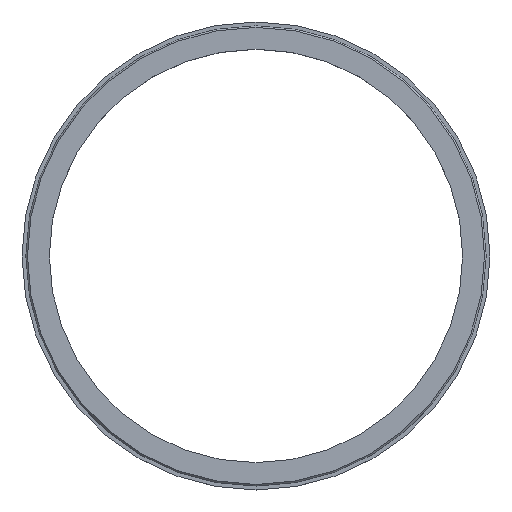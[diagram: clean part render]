
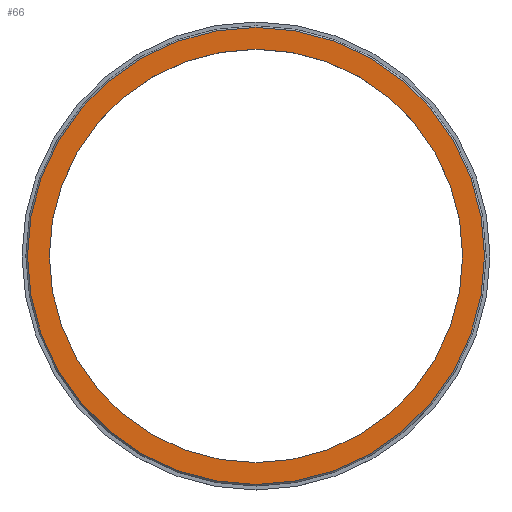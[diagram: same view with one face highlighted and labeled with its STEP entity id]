
A CAD part, top view. The second image highlights one B-rep face of the part: STEP entity #66.
In plain terms, the highlighted planar face has unit normal (0, 0, 1).
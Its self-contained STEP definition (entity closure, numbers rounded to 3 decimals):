
#58=FACE_BOUND('',#96,.F.);
#61=PLANE('',#292);
#66=ADVANCED_FACE('',(#58,#81),#61,.T.);
#81=FACE_OUTER_BOUND('',#97,.F.);
#96=EDGE_LOOP('',(#120,#121));
#97=EDGE_LOOP('',(#122,#123));
#120=ORIENTED_EDGE('',*,*,#217,.T.);
#121=ORIENTED_EDGE('',*,*,#212,.T.);
#122=ORIENTED_EDGE('',*,*,#211,.F.);
#123=ORIENTED_EDGE('',*,*,#208,.F.);
#208=EDGE_CURVE('',#265,#264,#238,.T.);
#211=EDGE_CURVE('',#264,#265,#241,.T.);
#212=EDGE_CURVE('',#261,#260,#242,.T.);
#217=EDGE_CURVE('',#260,#261,#243,.T.);
#238=CIRCLE('',#276,29.3);
#241=CIRCLE('',#279,29.3);
#242=CIRCLE('',#280,26.5);
#243=CIRCLE('',#281,26.5);
#260=VERTEX_POINT('',#397);
#261=VERTEX_POINT('',#398);
#264=VERTEX_POINT('',#401);
#265=VERTEX_POINT('',#402);
#276=AXIS2_PLACEMENT_3D('',#411,#316,#317);
#279=AXIS2_PLACEMENT_3D('',#414,#322,#323);
#280=AXIS2_PLACEMENT_3D('',#415,#324,#325);
#281=AXIS2_PLACEMENT_3D('',#420,#330,#331);
#292=AXIS2_PLACEMENT_3D('',#439,#360,#361);
#316=DIRECTION('',(0.,0.,1.));
#317=DIRECTION('',(0.,1.,0.));
#322=DIRECTION('',(0.,0.,1.));
#323=DIRECTION('',(0.,-1.,0.));
#324=DIRECTION('',(0.,0.,1.));
#325=DIRECTION('',(0.,-1.,0.));
#330=DIRECTION('',(0.,0.,1.));
#331=DIRECTION('',(0.,1.,0.));
#360=DIRECTION('',(0.,0.,1.));
#361=DIRECTION('',(-1.,0.,0.));
#397=CARTESIAN_POINT('',(197.042,62.13,-190.5));
#398=CARTESIAN_POINT('',(197.042,9.13,-190.5));
#401=CARTESIAN_POINT('',(197.042,6.33,-190.5));
#402=CARTESIAN_POINT('',(197.042,64.93,-190.5));
#411=CARTESIAN_POINT('',(197.042,35.63,-190.5));
#414=CARTESIAN_POINT('',(197.042,35.63,-190.5));
#415=CARTESIAN_POINT('',(197.042,35.63,-190.5));
#420=CARTESIAN_POINT('',(197.042,35.63,-190.5));
#439=CARTESIAN_POINT('',(227.132,65.72,-190.5));
